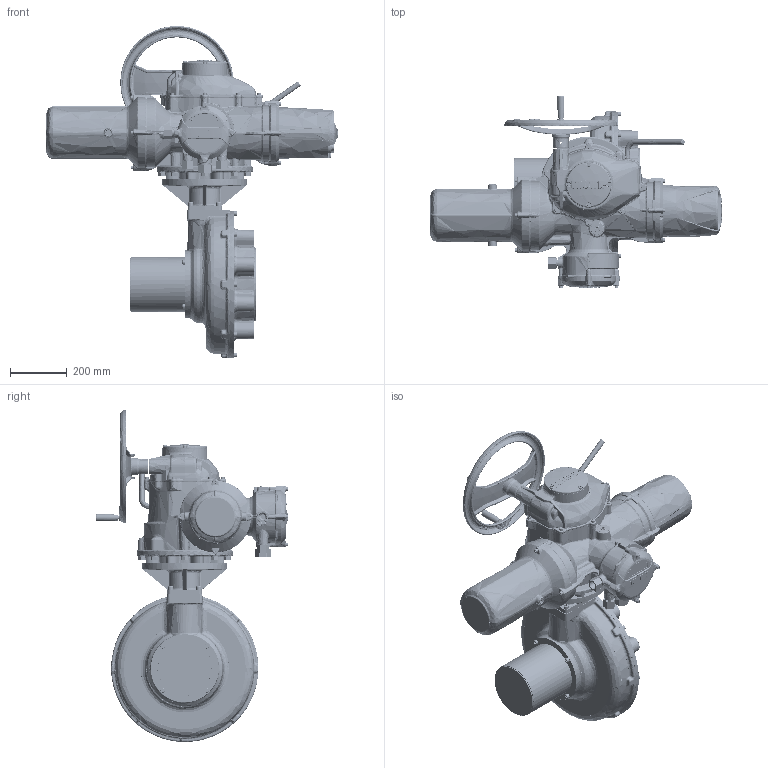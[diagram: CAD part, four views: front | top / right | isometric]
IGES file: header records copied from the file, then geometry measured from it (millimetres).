
Start section: C
Global section: file name: II5SHWIB12STD-1.igs; native system: By Siemens PLM Incorporated; preprocessor: XPlus GENERIC/IGES 18.0.17; author: Author; organization: Title; date: 20160624.103719; units: millimetre
Bounding box: 1031.8 x 680.05 x 1172 mm (x, y, z)
Surface area: 3060408.4 mm2 (no closed solid volume)
Topology: 0 solids, 0 shells, 9368 faces, 51190 edges, 50727 vertices
Faces by surface type: bspline 9368
